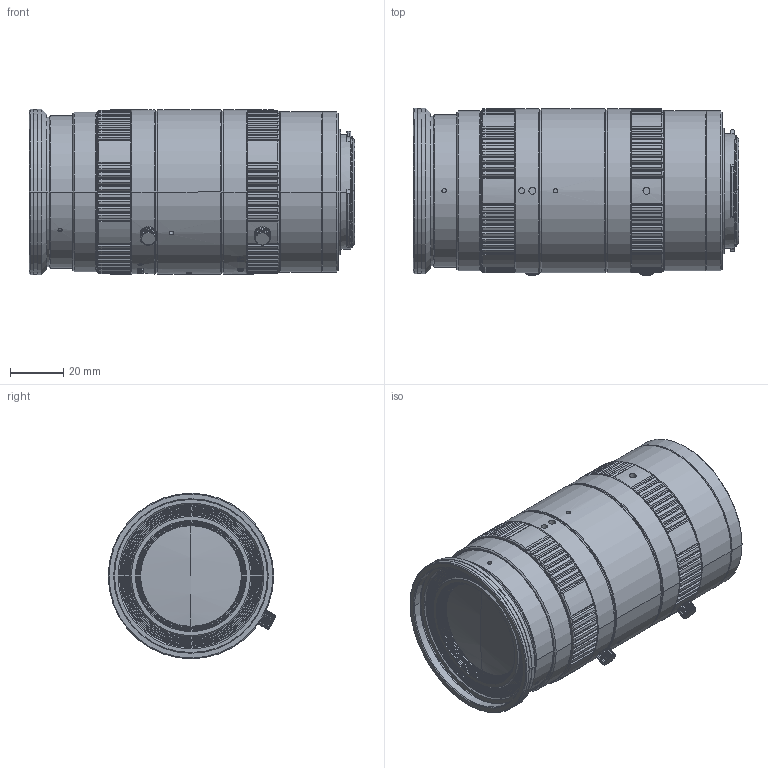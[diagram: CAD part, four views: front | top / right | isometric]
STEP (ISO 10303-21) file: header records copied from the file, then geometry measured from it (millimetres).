
FILE_DESCRIPTION((''),'2;1');
FILE_NAME('OPT-F5045-78M_V1_0','2021-09-13T10:54:35',('SCI-X3'),(''),'CREO PARAMETRIC BY PTC INC, 2019224','CREO PARAMETRIC BY PTC INC, 2019224','');
FILE_SCHEMA(('AUTOMOTIVE_DESIGN { 1 0 10303 214 1 1 1 1 }'));
Length unit declared in the file: millimetre
Products named in the file (1): OPT-F5045-78M_V1_0
Bounding box: 121.92 x 62.78 x 62 mm (x, y, z)
Volume: 325410.1 mm3; surface area: 36340.6 mm2
Topology: 1 solids, 2 shells, 2038 faces, 5337 edges, 3432 vertices
Faces by surface type: plane 719, cylinder 648, bspline 347, cone 286, torus 24, extrusion 10, sphere 4
Entity records: 74668 total; most frequent: CARTESIAN_POINT 26706, ORIENTED_EDGE 10660, DIRECTION 9096, EDGE_CURVE 5330, AXIS2_PLACEMENT_3D 3510, VERTEX_POINT 3426, EDGE_LOOP 2172, VECTOR 2076
